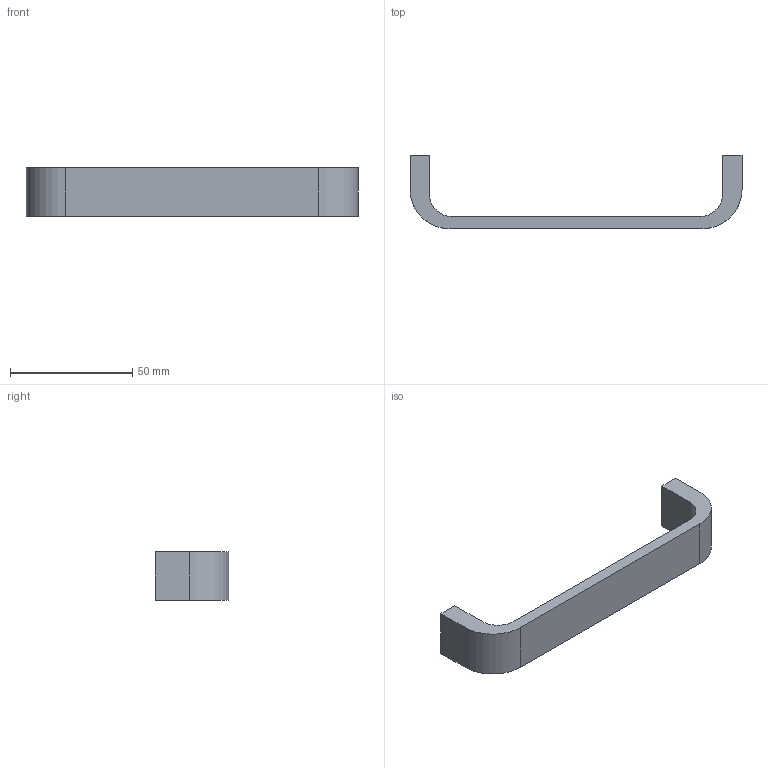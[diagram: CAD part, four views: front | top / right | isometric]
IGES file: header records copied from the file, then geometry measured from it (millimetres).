
Start section: Data from Parasolid IGES Translator 20.0.26, Copyright(c) 2006 Siemens P LM Software. All Rights Reserved.
Global section: file name: 9266567.igs; native system: By Siemens PLM Incorporated; preprocessor: XPlus GENERIC/IGES 20.0.26; author: Noname; organization: Noname; date: 20200630.121901; units: millimetre
Bounding box: 136 x 30 x 20 mm (x, y, z)
Surface area: 9383.9 mm2 (no closed solid volume)
Topology: 0 solids, 0 shells, 18 faces, 84 edges, 82 vertices
Faces by surface type: extrusion 12, revolution 6
